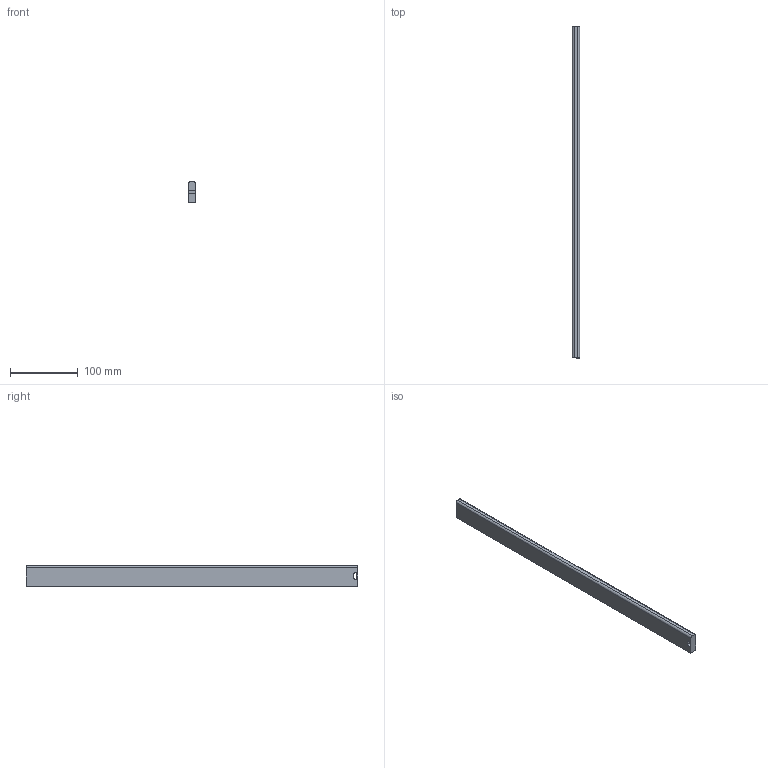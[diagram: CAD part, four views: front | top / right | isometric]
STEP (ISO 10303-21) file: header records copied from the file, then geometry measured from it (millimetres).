
FILE_DESCRIPTION (( 'STEP AP214' ), '1' );
FILE_NAME ('_Seitenreling_S610000200_RL490.step', '2010-09-06T14:51:21', ( 'grass' ), ( '' ), 'SwSTEP 2.0', 'SolidWorks 2010', '' );
FILE_SCHEMA (( 'AUTOMOTIVE_DESIGN' ));
Length unit declared in the file: millimetre
Products named in the file (1): _Seitenreling_S610000200_RL490
Bounding box: 10.5 x 490 x 30 mm (x, y, z)
Volume: 151988.5 mm3; surface area: 39231.1 mm2
Topology: 1 solids, 1 shells, 12 faces, 30 edges, 20 vertices
Faces by surface type: plane 8, cylinder 4
Entity records: 400 total; most frequent: DIRECTION 64, CARTESIAN_POINT 63, ORIENTED_EDGE 60, EDGE_CURVE 30, LINE 22, VECTOR 22, AXIS2_PLACEMENT_3D 21, VERTEX_POINT 20
